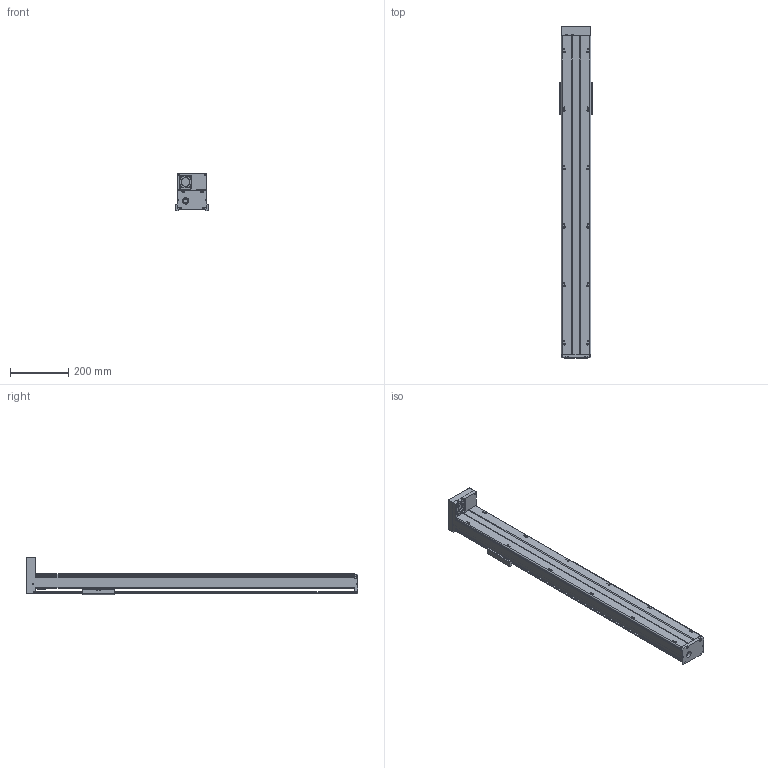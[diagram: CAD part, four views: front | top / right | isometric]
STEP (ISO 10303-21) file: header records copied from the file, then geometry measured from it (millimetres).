
FILE_DESCRIPTION(/* description */ (''),/* implementation_level */ '2;1');
FILE_NAME(/* name */ 'TKA100-FD-900_asm1.stp',/* time_stamp */ '2016-05-16T15:30:16+08:00',/* author */ (''),/* organization */ (''),/* preprocessor_version */ 'ST-DEVELOPER v15',/* originating_system */ 'SIEMENS PLM Software NX 8.5',/* authorisation */ '');
FILE_SCHEMA (('AUTOMOTIVE_DESIGN { 1 0 10303 214 3 1 1 1 }'));
Length unit declared in the file: millimetre
Products named in the file (3): 200-02; 200-01; TKA100-FD-900_asm1
Assembly tree (2 placements, depth 2):
  TKA100-FD-900_asm1
    200-01
    200-02
Bounding box: 110 x 1136 x 127 mm (x, y, z)
Volume: 2359355.8 mm3; surface area: 819668.7 mm2
Topology: 2 solids, 13 shells, 801 faces, 2068 edges, 1344 vertices
Faces by surface type: cylinder 311, plane 301, cone 125, torus 38, bspline 26
Full cylindrical faces by diameter (mm): 2.5 x6, 2.6 x8, 3.3 x10, 3.4 x10, 3.8 x8, 4.2 x21, 4.3 x4, 4.5 x8, 5 x1, 5.5 x22, 6.6 x4, 8 x5, 9 x4, 10 x14, 11 x4, 12 x7, 15.3 x1, 16 x1, 22 x1, 24 x1, 28 x4, 30 x1, 33 x1
Entity records: 28528 total; most frequent: CARTESIAN_POINT 10059, DIRECTION 3858, ORIENTED_EDGE 3484, EDGE_CURVE 1742, AXIS2_PLACEMENT_3D 1548, VERTEX_POINT 1254, EDGE_LOOP 1152, ADVANCED_FACE 801
